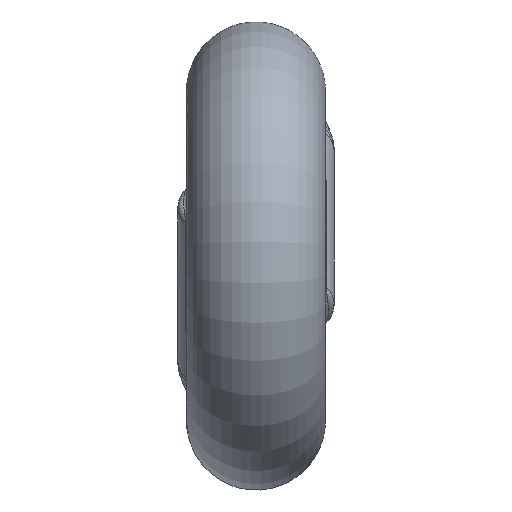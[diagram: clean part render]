
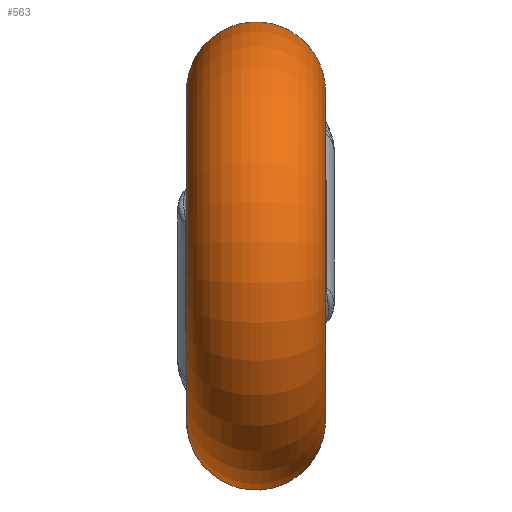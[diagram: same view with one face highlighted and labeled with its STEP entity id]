
A CAD part, left-side view. The second image highlights one B-rep face of the part: STEP entity #563.
In plain terms, the highlighted toroidal (fillet/blend) face has major radius 4.75 mm and minor radius 2 mm.
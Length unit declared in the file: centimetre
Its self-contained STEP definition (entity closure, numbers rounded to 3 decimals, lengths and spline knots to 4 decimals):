
#42=TOROIDAL_SURFACE('',#609,0.475,0.2);
#64=B_SPLINE_CURVE_WITH_KNOTS('',3,(#1226,#1227,#1228,#1229,#1230,#1231,
#1232),.UNSPECIFIED.,.F.,.F.,(4,1,1,1,4),(-0.2049,-0.1464,
-0.0878,-0.0439,0.),
 .UNSPECIFIED.);
#70=B_SPLINE_CURVE_WITH_KNOTS('',3,(#1472,#1473,#1474,#1475,#1476,#1477,
#1478),.UNSPECIFIED.,.F.,.F.,(4,1,1,1,4),(-0.2049,-0.1464,
-0.0878,-0.0439,0.),.UNSPECIFIED.);
#75=B_SPLINE_CURVE_WITH_KNOTS('',3,(#1765,#1766,#1767,#1768,#1769,#1770),
 .UNSPECIFIED.,.F.,.F.,(4,1,1,4),(-0.2392,-0.1709,
-0.1025,0.),.UNSPECIFIED.);
#77=B_SPLINE_CURVE_WITH_KNOTS('',3,(#1832,#1833,#1834,#1835,#1836,#1837,
#1838,#1839,#1840,#1841,#1842),.UNSPECIFIED.,.F.,.F.,(4,1,1,1,1,1,1,1,4),
(-0.4647,-0.3984,-0.332,-0.2656,
-0.1992,-0.1328,-0.0664,-0.0498,
0.),.UNSPECIFIED.);
#79=B_SPLINE_CURVE_WITH_KNOTS('',3,(#1861,#1862,#1863,#1864,#1865,#1866,
#1867,#1868,#1869,#1870,#1871),.UNSPECIFIED.,.F.,.F.,(4,1,1,1,1,1,1,1,4),
(-0.4647,-0.3983,-0.3319,-0.2656,
-0.1992,-0.1328,-0.0664,-0.0498,
0.),.UNSPECIFIED.);
#80=B_SPLINE_CURVE_WITH_KNOTS('',3,(#1874,#1875,#1876,#1877,#1878,#1879),
 .UNSPECIFIED.,.F.,.F.,(4,1,1,4),(-0.2392,-0.1709,
-0.1025,0.),.UNSPECIFIED.);
#103=FACE_BOUND('',#168,.T.);
#128=FACE_OUTER_BOUND('',#167,.T.);
#167=EDGE_LOOP('',(#441,#442,#443,#444));
#168=EDGE_LOOP('',(#445,#446,#447,#448));
#205=CIRCLE('',#610,0.475);
#206=CIRCLE('',#611,0.475);
#238=VERTEX_POINT('',#1223);
#239=VERTEX_POINT('',#1225);
#242=VERTEX_POINT('',#1469);
#243=VERTEX_POINT('',#1471);
#245=VERTEX_POINT('',#1621);
#252=VERTEX_POINT('',#1726);
#253=VERTEX_POINT('',#1860);
#254=VERTEX_POINT('',#1872);
#291=EDGE_CURVE('',#238,#239,#64,.T.);
#300=EDGE_CURVE('',#242,#243,#70,.T.);
#315=EDGE_CURVE('',#239,#252,#75,.T.);
#317=EDGE_CURVE('',#245,#238,#77,.T.);
#321=EDGE_CURVE('',#253,#242,#79,.T.);
#322=EDGE_CURVE('',#253,#254,#205,.T.);
#323=EDGE_CURVE('',#243,#254,#80,.T.);
#324=EDGE_CURVE('',#245,#252,#206,.T.);
#441=ORIENTED_EDGE('',*,*,#321,.F.);
#442=ORIENTED_EDGE('',*,*,#322,.T.);
#443=ORIENTED_EDGE('',*,*,#323,.F.);
#444=ORIENTED_EDGE('',*,*,#300,.F.);
#445=ORIENTED_EDGE('',*,*,#315,.F.);
#446=ORIENTED_EDGE('',*,*,#291,.F.);
#447=ORIENTED_EDGE('',*,*,#317,.F.);
#448=ORIENTED_EDGE('',*,*,#324,.T.);
#563=ADVANCED_FACE('',(#128,#103),#42,.T.);
#609=AXIS2_PLACEMENT_3D('',#1859,#695,#696);
#610=AXIS2_PLACEMENT_3D('',#1873,#697,#698);
#611=AXIS2_PLACEMENT_3D('',#1880,#699,#700);
#695=DIRECTION('center_axis',(0.,1.,0.));
#696=DIRECTION('ref_axis',(1.,0.,0.));
#697=DIRECTION('center_axis',(0.,1.,0.));
#698=DIRECTION('ref_axis',(-1.,0.,0.));
#699=DIRECTION('center_axis',(0.,-1.,0.));
#700=DIRECTION('ref_axis',(-1.,0.,0.));
#1223=CARTESIAN_POINT('',(0.6017,0.0514,-0.3028));
#1225=CARTESIAN_POINT('',(0.5176,0.177,-0.3882));
#1226=CARTESIAN_POINT('Ctrl Pts',(0.6017,0.0514,
-0.3028));
#1227=CARTESIAN_POINT('Ctrl Pts',(0.5932,0.0526,
-0.32));
#1228=CARTESIAN_POINT('Ctrl Pts',(0.5758,0.0625,-0.3538));
#1229=CARTESIAN_POINT('Ctrl Pts',(0.5529,0.0971,
-0.388));
#1230=CARTESIAN_POINT('Ctrl Pts',(0.5332,0.1393,-0.3989));
#1231=CARTESIAN_POINT('Ctrl Pts',(0.5225,0.1651,-0.3934));
#1232=CARTESIAN_POINT('Ctrl Pts',(0.5176,0.177,-0.3882));
#1469=CARTESIAN_POINT('',(0.6017,0.0986,0.3028));
#1471=CARTESIAN_POINT('',(0.5176,-0.027,0.3882));
#1472=CARTESIAN_POINT('Ctrl Pts',(0.6017,0.0986,
0.3028));
#1473=CARTESIAN_POINT('Ctrl Pts',(0.5932,0.0974,0.32));
#1474=CARTESIAN_POINT('Ctrl Pts',(0.5758,0.0875,
0.3538));
#1475=CARTESIAN_POINT('Ctrl Pts',(0.5529,0.0529,
0.388));
#1476=CARTESIAN_POINT('Ctrl Pts',(0.5332,0.0107,0.3989));
#1477=CARTESIAN_POINT('Ctrl Pts',(0.5225,-0.0151,
0.3934));
#1478=CARTESIAN_POINT('Ctrl Pts',(0.5176,-0.027,
0.3882));
#1621=CARTESIAN_POINT('',(0.4725,0.275,-0.0491));
#1726=CARTESIAN_POINT('',(0.4229,0.275,-0.2163));
#1765=CARTESIAN_POINT('Ctrl Pts',(0.5176,0.177,-0.3882));
#1766=CARTESIAN_POINT('Ctrl Pts',(0.51,0.1956,-0.38));
#1767=CARTESIAN_POINT('Ctrl Pts',(0.4959,0.2281,-0.3526));
#1768=CARTESIAN_POINT('Ctrl Pts',(0.4705,0.264,-0.2895));
#1769=CARTESIAN_POINT('Ctrl Pts',(0.4457,0.275,-0.2398));
#1770=CARTESIAN_POINT('Ctrl Pts',(0.4229,0.275,-0.2163));
#1832=CARTESIAN_POINT('Ctrl Pts',(0.4725,0.275,-0.0491));
#1833=CARTESIAN_POINT('Ctrl Pts',(0.4873,0.275,-0.0646));
#1834=CARTESIAN_POINT('Ctrl Pts',(0.522,0.2707,-0.0905));
#1835=CARTESIAN_POINT('Ctrl Pts',(0.5774,0.2443,-0.11));
#1836=CARTESIAN_POINT('Ctrl Pts',(0.6214,0.2012,-0.1278));
#1837=CARTESIAN_POINT('Ctrl Pts',(0.6468,0.1476,-0.1532));
#1838=CARTESIAN_POINT('Ctrl Pts',(0.6486,0.0946,-0.1916));
#1839=CARTESIAN_POINT('Ctrl Pts',(0.6349,0.0667,
-0.2305));
#1840=CARTESIAN_POINT('Ctrl Pts',(0.6184,0.0529,
-0.2683));
#1841=CARTESIAN_POINT('Ctrl Pts',(0.609,0.0505,
-0.2882));
#1842=CARTESIAN_POINT('Ctrl Pts',(0.6017,0.0514,
-0.3028));
#1859=CARTESIAN_POINT('Origin',(0.,0.075,0.));
#1860=CARTESIAN_POINT('',(0.4725,-0.125,0.0491));
#1861=CARTESIAN_POINT('Ctrl Pts',(0.4725,-0.125,0.0491));
#1862=CARTESIAN_POINT('Ctrl Pts',(0.4873,-0.125,0.0646));
#1863=CARTESIAN_POINT('Ctrl Pts',(0.522,-0.1207,
0.0905));
#1864=CARTESIAN_POINT('Ctrl Pts',(0.5774,-0.0943,
0.11));
#1865=CARTESIAN_POINT('Ctrl Pts',(0.6214,-0.0512,
0.1278));
#1866=CARTESIAN_POINT('Ctrl Pts',(0.6468,0.0025,
0.1532));
#1867=CARTESIAN_POINT('Ctrl Pts',(0.6486,0.0554,
0.1916));
#1868=CARTESIAN_POINT('Ctrl Pts',(0.6349,0.0833,
0.2305));
#1869=CARTESIAN_POINT('Ctrl Pts',(0.6184,0.0971,
0.2683));
#1870=CARTESIAN_POINT('Ctrl Pts',(0.609,0.0995,
0.2882));
#1871=CARTESIAN_POINT('Ctrl Pts',(0.6017,0.0986,
0.3028));
#1872=CARTESIAN_POINT('',(0.4229,-0.125,0.2163));
#1873=CARTESIAN_POINT('Origin',(0.,-0.125,0.));
#1874=CARTESIAN_POINT('Ctrl Pts',(0.5176,-0.027,
0.3882));
#1875=CARTESIAN_POINT('Ctrl Pts',(0.51,-0.0456,
0.38));
#1876=CARTESIAN_POINT('Ctrl Pts',(0.4959,-0.078,
0.3526));
#1877=CARTESIAN_POINT('Ctrl Pts',(0.4705,-0.114,0.2895));
#1878=CARTESIAN_POINT('Ctrl Pts',(0.4457,-0.125,
0.2398));
#1879=CARTESIAN_POINT('Ctrl Pts',(0.4229,-0.125,0.2163));
#1880=CARTESIAN_POINT('Origin',(0.,0.275,0.));
